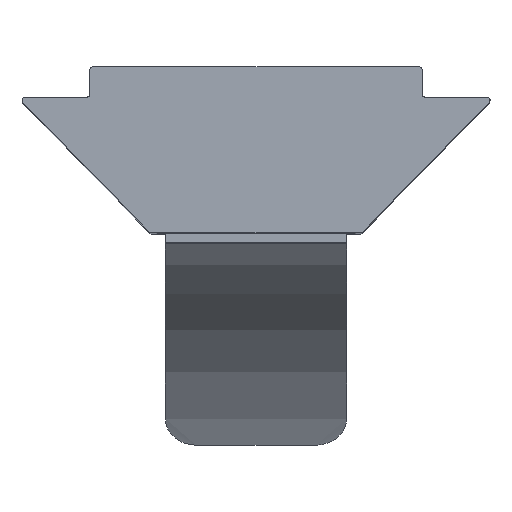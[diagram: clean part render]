
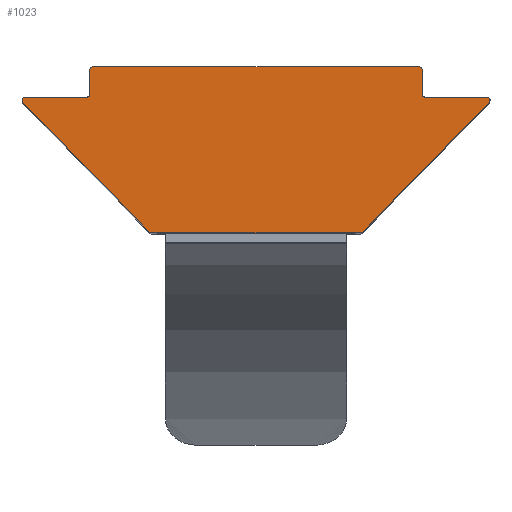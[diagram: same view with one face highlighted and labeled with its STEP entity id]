
A CAD part, top view. The second image highlights one B-rep face of the part: STEP entity #1023.
In plain terms, the highlighted planar face has unit normal (0, 0, 1).
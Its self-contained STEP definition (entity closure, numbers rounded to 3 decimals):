
#457=CARTESIAN_POINT('',(8.957,4.5,20.0));
#458=VERTEX_POINT('',#457);
#459=CARTESIAN_POINT('',(9.057,4.4,20.0));
#460=VERTEX_POINT('',#459);
#461=CARTESIAN_POINT('',(9.057,4.5,20.0));
#462=DIRECTION('',(0.0,0.0,1.0));
#463=DIRECTION('',(1.0,0.0,0.0));
#464=AXIS2_PLACEMENT_3D('',#461,#462,#463);
#465=CIRCLE('',#464,0.1);
#466=EDGE_CURVE('',#458,#460,#465,.T.);
#499=CARTESIAN_POINT('',(11.107,4.4,20.0));
#500=VERTEX_POINT('',#499);
#501=CARTESIAN_POINT('',(9.057,4.4,20.0));
#502=DIRECTION('',(1.0,0.0,0.0));
#503=VECTOR('',#502,2.05);
#504=LINE('',#501,#503);
#505=EDGE_CURVE('',#460,#500,#504,.T.);
#530=CARTESIAN_POINT('',(11.18,4.231,20.0));
#531=VERTEX_POINT('',#530);
#532=CARTESIAN_POINT('',(11.107,4.3,20.0));
#533=DIRECTION('',(0.0,0.0,-1.0));
#534=DIRECTION('',(0.727,-0.687,0.0));
#535=AXIS2_PLACEMENT_3D('',#532,#533,#534);
#536=CIRCLE('',#535,0.1);
#537=EDGE_CURVE('',#500,#531,#536,.T.);
#563=CARTESIAN_POINT('',(6.986,-0.069,20.0));
#564=VERTEX_POINT('',#563);
#565=CARTESIAN_POINT('',(11.18,4.231,20.0));
#566=DIRECTION('',(-0.698,-0.716,0.0));
#567=VECTOR('',#566,6.006);
#568=LINE('',#565,#567);
#569=EDGE_CURVE('',#531,#564,#568,.T.);
#594=CARTESIAN_POINT('',(6.914,-0.1,20.0));
#595=VERTEX_POINT('',#594);
#596=CARTESIAN_POINT('',(6.914,0.,20.0));
#597=DIRECTION('',(0.0,0.0,-1.0));
#598=DIRECTION('',(0.0,-1.0,0.0));
#599=AXIS2_PLACEMENT_3D('',#596,#597,#598);
#600=CIRCLE('',#599,0.1);
#601=EDGE_CURVE('',#564,#595,#600,.T.);
#627=CARTESIAN_POINT('',(0.,-0.1,20.0));
#628=VERTEX_POINT('',#627);
#629=CARTESIAN_POINT('',(6.914,-0.1,20.0));
#630=DIRECTION('',(-1.0,0.0,0.0));
#631=VECTOR('',#630,6.914);
#632=LINE('',#629,#631);
#633=EDGE_CURVE('',#595,#628,#632,.T.);
#667=CARTESIAN_POINT('',(-0.073,-0.069,20.0));
#668=VERTEX_POINT('',#667);
#669=CARTESIAN_POINT('',(0.0,0.0,20.0));
#670=DIRECTION('',(0.0,0.0,-1.));
#671=DIRECTION('',(-0.727,-0.687,0.0));
#672=AXIS2_PLACEMENT_3D('',#669,#670,#671);
#673=CIRCLE('',#672,0.1);
#674=EDGE_CURVE('',#628,#668,#673,.T.);
#700=CARTESIAN_POINT('',(-4.266,4.231,20.0));
#701=VERTEX_POINT('',#700);
#702=CARTESIAN_POINT('',(-0.073,-0.069,20.0));
#703=DIRECTION('',(-0.698,0.716,0.0));
#704=VECTOR('',#703,6.006);
#705=LINE('',#702,#704);
#706=EDGE_CURVE('',#668,#701,#705,.T.);
#731=CARTESIAN_POINT('',(-4.193,4.4,20.0));
#732=VERTEX_POINT('',#731);
#733=CARTESIAN_POINT('',(-4.193,4.3,20.0));
#734=DIRECTION('',(0.0,0.0,-1.0));
#735=DIRECTION('',(0.,1.0,0.0));
#736=AXIS2_PLACEMENT_3D('',#733,#734,#735);
#737=CIRCLE('',#736,0.1);
#738=EDGE_CURVE('',#701,#732,#737,.T.);
#764=CARTESIAN_POINT('',(-2.143,4.4,20.0));
#765=VERTEX_POINT('',#764);
#766=CARTESIAN_POINT('',(-4.193,4.4,20.0));
#767=DIRECTION('',(1.0,0.0,0.0));
#768=VECTOR('',#767,2.05);
#769=LINE('',#766,#768);
#770=EDGE_CURVE('',#732,#765,#769,.T.);
#795=CARTESIAN_POINT('',(-2.043,4.5,20.0));
#796=VERTEX_POINT('',#795);
#797=CARTESIAN_POINT('',(-2.143,4.5,20.0));
#798=DIRECTION('',(0.0,0.0,1.0));
#799=DIRECTION('',(0.,1.0,0.0));
#800=AXIS2_PLACEMENT_3D('',#797,#798,#799);
#801=CIRCLE('',#800,0.1);
#802=EDGE_CURVE('',#765,#796,#801,.T.);
#828=CARTESIAN_POINT('',(-2.043,5.3,20.0));
#829=VERTEX_POINT('',#828);
#830=CARTESIAN_POINT('',(-2.043,4.5,20.0));
#831=DIRECTION('',(0.0,1.0,0.0));
#832=VECTOR('',#831,0.8);
#833=LINE('',#830,#832);
#834=EDGE_CURVE('',#796,#829,#833,.T.);
#859=CARTESIAN_POINT('',(-1.943,5.4,20.0));
#860=VERTEX_POINT('',#859);
#861=CARTESIAN_POINT('',(-1.943,5.3,20.0));
#862=DIRECTION('',(0.0,0.0,-1.0));
#863=DIRECTION('',(0.0,1.0,0.0));
#864=AXIS2_PLACEMENT_3D('',#861,#862,#863);
#865=CIRCLE('',#864,0.1);
#866=EDGE_CURVE('',#829,#860,#865,.T.);
#892=CARTESIAN_POINT('',(8.857,5.4,20.0));
#893=VERTEX_POINT('',#892);
#894=CARTESIAN_POINT('',(-1.943,5.4,20.0));
#895=DIRECTION('',(1.0,0.0,0.0));
#896=VECTOR('',#895,10.8);
#897=LINE('',#894,#896);
#898=EDGE_CURVE('',#860,#893,#897,.T.);
#926=CARTESIAN_POINT('',(8.957,5.3,20.0));
#927=VERTEX_POINT('',#926);
#928=CARTESIAN_POINT('',(8.857,5.3,20.0));
#929=DIRECTION('',(0.0,0.0,-1.0));
#930=DIRECTION('',(1.0,0.,0.0));
#931=AXIS2_PLACEMENT_3D('',#928,#929,#930);
#932=CIRCLE('',#931,0.1);
#933=EDGE_CURVE('',#893,#927,#932,.T.);
#959=CARTESIAN_POINT('',(8.957,5.3,20.0));
#960=DIRECTION('',(0.0,-1.0,0.0));
#961=VECTOR('',#960,0.8);
#962=LINE('',#959,#961);
#963=EDGE_CURVE('',#927,#458,#962,.T.);
#1000=CARTESIAN_POINT('',(3.457,3.097,20.0));
#1001=DIRECTION('',(0.0,0.0,1.0));
#1002=DIRECTION('',(1.0,0.0,0.0));
#1003=AXIS2_PLACEMENT_3D('',#1000,#1001,#1002);
#1004=PLANE('',#1003);
#1005=ORIENTED_EDGE('',*,*,#466,.F.);
#1006=ORIENTED_EDGE('',*,*,#963,.F.);
#1007=ORIENTED_EDGE('',*,*,#933,.F.);
#1008=ORIENTED_EDGE('',*,*,#898,.F.);
#1009=ORIENTED_EDGE('',*,*,#866,.F.);
#1010=ORIENTED_EDGE('',*,*,#834,.F.);
#1011=ORIENTED_EDGE('',*,*,#802,.F.);
#1012=ORIENTED_EDGE('',*,*,#770,.F.);
#1013=ORIENTED_EDGE('',*,*,#738,.F.);
#1014=ORIENTED_EDGE('',*,*,#706,.F.);
#1015=ORIENTED_EDGE('',*,*,#674,.F.);
#1016=ORIENTED_EDGE('',*,*,#633,.F.);
#1017=ORIENTED_EDGE('',*,*,#601,.F.);
#1018=ORIENTED_EDGE('',*,*,#569,.F.);
#1019=ORIENTED_EDGE('',*,*,#537,.F.);
#1020=ORIENTED_EDGE('',*,*,#505,.F.);
#1021=EDGE_LOOP('',(#1005,#1006,#1007,#1008,#1009,#1010,#1011,#1012,#1013,#1014,#1015,#1016,#1017,#1018,#1019,#1020));
#1022=FACE_OUTER_BOUND('',#1021,.T.);
#1023=ADVANCED_FACE('',(#1022),#1004,.T.);
